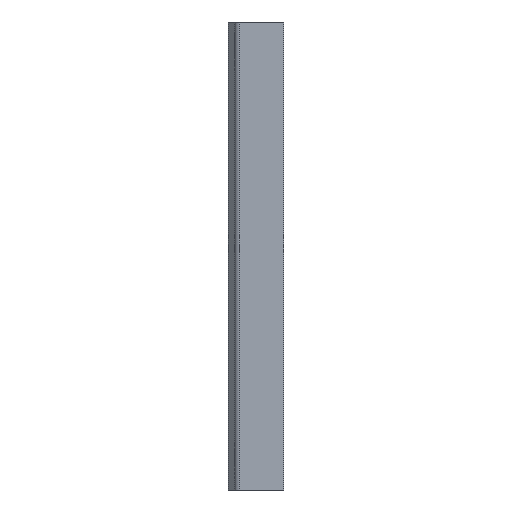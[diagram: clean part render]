
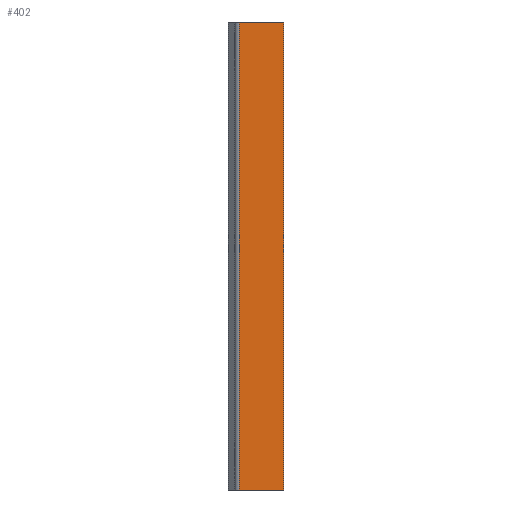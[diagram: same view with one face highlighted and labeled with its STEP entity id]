
A CAD part, left-side view. The second image highlights one B-rep face of the part: STEP entity #402.
In plain terms, the highlighted planar face has unit normal (-1, 0, 0).
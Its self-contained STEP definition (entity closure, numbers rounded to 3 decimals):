
#150 = EDGE_LOOP ( 'NONE', ( #315, #348, #350, #359 ) ) ;
#292 = VERTEX_POINT ( 'NONE', #677 ) ;
#314 = EDGE_CURVE ( 'NONE', #482, #939, #881, .T. ) ;
#315 = ORIENTED_EDGE ( 'NONE', *, *, #335, .T. ) ;
#335 = EDGE_CURVE ( 'NONE', #482, #421, #449, .T. ) ;
#348 = ORIENTED_EDGE ( 'NONE', *, *, #383, .T. ) ;
#350 = ORIENTED_EDGE ( 'NONE', *, *, #883, .F. ) ;
#359 = ORIENTED_EDGE ( 'NONE', *, *, #314, .F. ) ;
#383 = EDGE_CURVE ( 'NONE', #421, #292, #637, .T. ) ;
#402 = ADVANCED_FACE ( 'NONE', ( #744 ), #745, .T. ) ;
#421 = VERTEX_POINT ( 'NONE', #760 ) ;
#449 = LINE ( 'NONE', #450, #451 ) ;
#450 = CARTESIAN_POINT ( 'NONE',  ( 0., 0., 52.5 ) ) ;
#451 = VECTOR ( 'NONE', #452, 1000. ) ;
#452 = DIRECTION ( 'NONE',  ( 0., 1., 0. ) ) ;
#482 = VERTEX_POINT ( 'NONE', #818 ) ;
#637 = LINE ( 'NONE', #638, #639 ) ;
#638 = CARTESIAN_POINT ( 'NONE',  ( 0., 10., 52.5 ) ) ;
#639 = VECTOR ( 'NONE', #640, 1000. ) ;
#640 = DIRECTION ( 'NONE',  ( 0., 0., -1. ) ) ;
#677 = CARTESIAN_POINT ( 'NONE',  ( 0., 10., -52.5 ) ) ;
#695 = LINE ( 'NONE', #696, #697 ) ;
#696 = CARTESIAN_POINT ( 'NONE',  ( 0., 0., -52.5 ) ) ;
#697 = VECTOR ( 'NONE', #698, 1000. ) ;
#698 = DIRECTION ( 'NONE',  ( 0., 1., 0. ) ) ;
#714 = CARTESIAN_POINT ( 'NONE',  ( 0., 0., -52.5 ) ) ;
#744 = FACE_OUTER_BOUND ( 'NONE', #150, .T. ) ;
#745 = PLANE ( 'NONE',  #746 ) ;
#746 = AXIS2_PLACEMENT_3D ( 'NONE', #747, #748, #749 ) ;
#747 = CARTESIAN_POINT ( 'NONE',  ( 0., 0., 52.5 ) ) ;
#748 = DIRECTION ( 'NONE',  ( -1., 0., 0. ) ) ;
#749 = DIRECTION ( 'NONE',  ( 0., 0., 1. ) ) ;
#760 = CARTESIAN_POINT ( 'NONE',  ( 0., 10., 52.5 ) ) ;
#818 = CARTESIAN_POINT ( 'NONE',  ( 0., 0., 52.5 ) ) ;
#881 = LINE ( 'NONE', #884, #885 ) ;
#883 = EDGE_CURVE ( 'NONE', #939, #292, #695, .T. ) ;
#884 = CARTESIAN_POINT ( 'NONE',  ( 0., 0., 52.5 ) ) ;
#885 = VECTOR ( 'NONE', #886, 1000. ) ;
#886 = DIRECTION ( 'NONE',  ( 0., 0., -1. ) ) ;
#939 = VERTEX_POINT ( 'NONE', #714 ) ;
